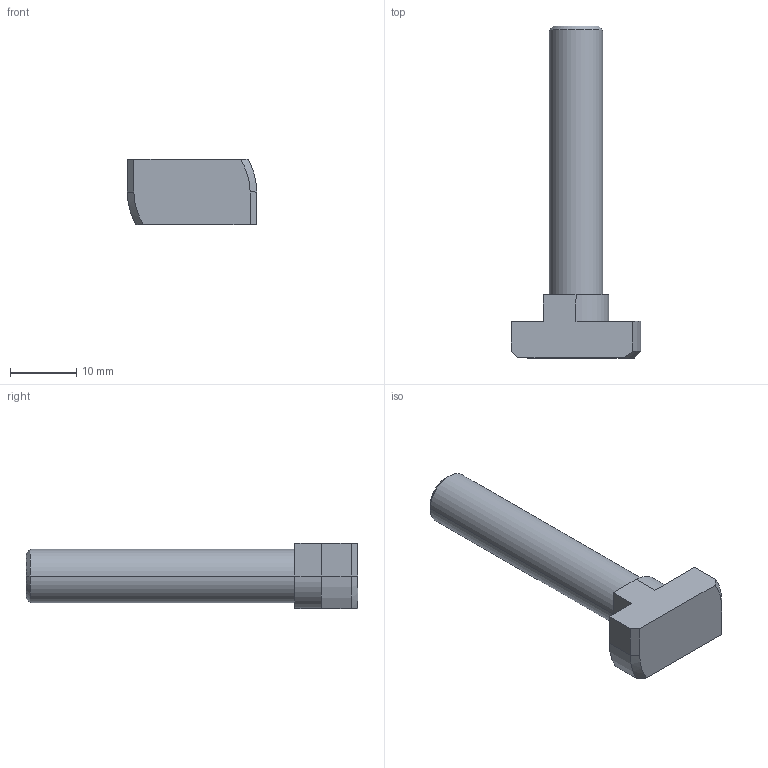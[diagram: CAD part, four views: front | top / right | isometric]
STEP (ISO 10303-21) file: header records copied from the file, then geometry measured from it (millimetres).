
FILE_DESCRIPTION((''),'2;1');
FILE_NAME('VTM084510','2002-12-27T',('Lipro doo'),('Lipro d.o.o.'),'PRO/ENGINEER BY PARAMETRIC TECHNOLOGY CORPORATION, 2001150','PRO/ENGINEER BY PARAMETRIC TECHNOLOGY CORPORATION, 2001150','');
FILE_SCHEMA(('CONFIG_CONTROL_DESIGN'));
Length unit declared in the file: millimetre
Products named in the file (1): VTM084510
Bounding box: 19.5 x 50 x 9.8 mm (x, y, z)
Volume: 3393 mm3; surface area: 2684.5 mm2
Topology: 1 solids, 2 shells, 25 faces, 62 edges, 40 vertices
Faces by surface type: plane 13, cylinder 8, cone 4
Entity records: 794 total; most frequent: CARTESIAN_POINT 138, DIRECTION 132, ORIENTED_EDGE 120, EDGE_CURVE 62, AXIS2_PLACEMENT_3D 46, VECTOR 40, LINE 40, VERTEX_POINT 40
